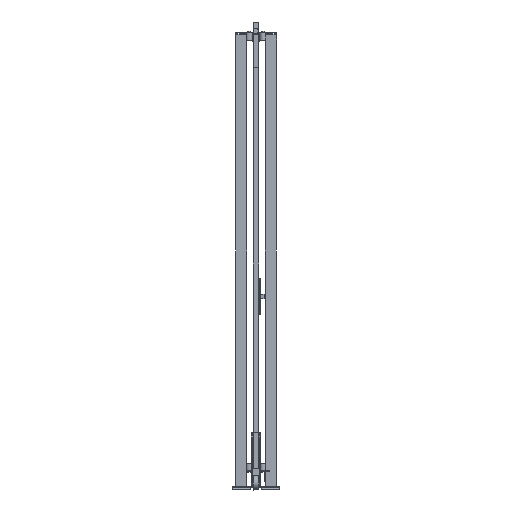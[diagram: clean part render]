
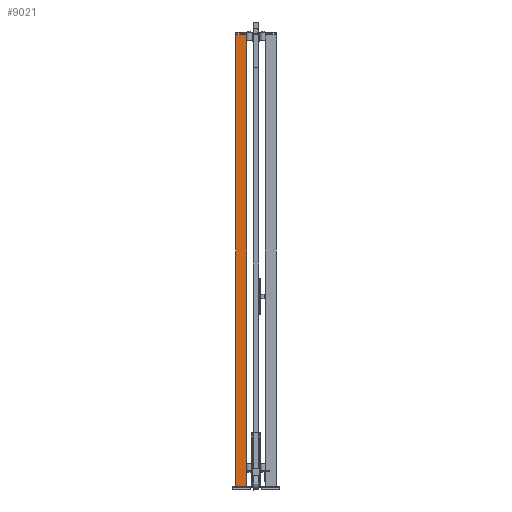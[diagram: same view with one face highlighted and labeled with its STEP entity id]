
A CAD part, left-side view. The second image highlights one B-rep face of the part: STEP entity #9021.
In plain terms, the highlighted planar face has unit normal (-1, 0, 0) as drawn and (0, 1, 0) by its records, which use the part's own axes.
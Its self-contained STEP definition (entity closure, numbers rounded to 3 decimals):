
#875=FACE_OUTER_BOUND('',#1553,.T.);
#1553=EDGE_LOOP('',(#5463,#5464,#5465,#5466));
#2304=VERTEX_POINT('',#18904);
#2305=VERTEX_POINT('',#18906);
#2307=VERTEX_POINT('',#18912);
#2310=VERTEX_POINT('',#18917);
#3576=EDGE_CURVE('',#2304,#2305,#10595,.T.);
#3582=EDGE_CURVE('',#2310,#2307,#10601,.T.);
#3585=EDGE_CURVE('',#2305,#2310,#10604,.T.);
#3586=EDGE_CURVE('',#2304,#2307,#10605,.T.);
#5463=ORIENTED_EDGE('',*,*,#3586,.T.);
#5464=ORIENTED_EDGE('',*,*,#3582,.F.);
#5465=ORIENTED_EDGE('',*,*,#3585,.F.);
#5466=ORIENTED_EDGE('',*,*,#3576,.F.);
#8415=PLANE('',#13622);
#9021=ADVANCED_FACE('',(#875),#8415,.F.);
#10595=LINE('',#18907,#12228);
#10601=LINE('',#18919,#12234);
#10604=LINE('',#18924,#12237);
#10605=LINE('',#18926,#12238);
#12228=VECTOR('',#14975,1.);
#12234=VECTOR('',#14983,1.);
#12237=VECTOR('',#14990,1.);
#12238=VECTOR('',#14993,1.);
#13622=AXIS2_PLACEMENT_3D('',#18925,#14991,#14992);
#14975=DIRECTION('',(-1.,0.,0.));
#14983=DIRECTION('',(1.,0.,0.));
#14990=DIRECTION('',(0.,0.,-1.));
#14991=DIRECTION('center_axis',(0.,-1.,0.));
#14992=DIRECTION('ref_axis',(0.,0.,-1.));
#14993=DIRECTION('',(0.,0.,-1.));
#18904=CARTESIAN_POINT('',(30.,30.,2520.));
#18906=CARTESIAN_POINT('',(-30.,30.,2520.));
#18907=CARTESIAN_POINT('',(0.,30.,2520.));
#18912=CARTESIAN_POINT('',(30.,30.,20.));
#18917=CARTESIAN_POINT('',(-30.,30.,20.));
#18919=CARTESIAN_POINT('',(0.,30.,20.));
#18924=CARTESIAN_POINT('',(-30.,30.,1270.));
#18925=CARTESIAN_POINT('Origin',(0.,30.,
1270.));
#18926=CARTESIAN_POINT('',(30.,30.,1270.));
